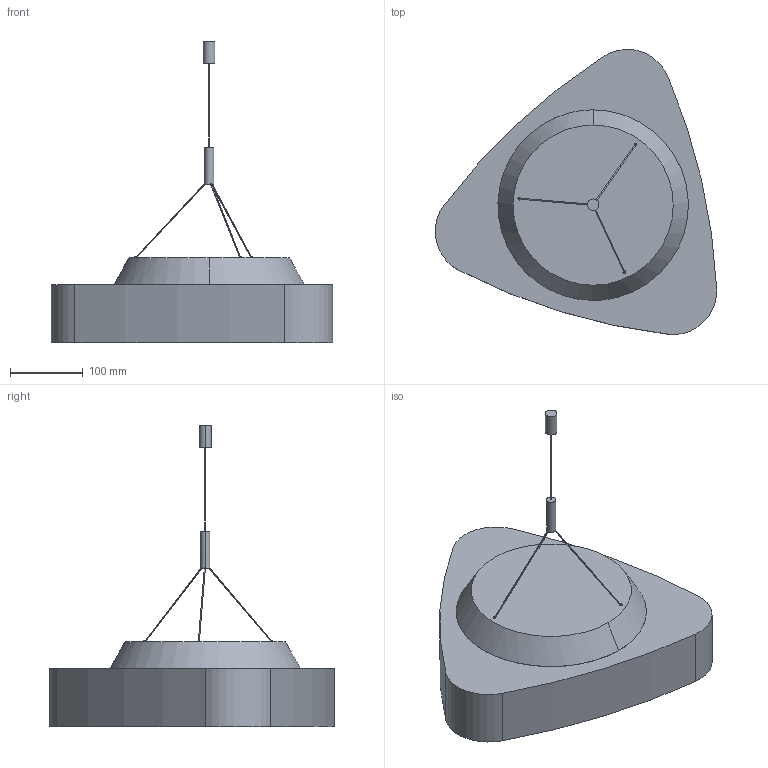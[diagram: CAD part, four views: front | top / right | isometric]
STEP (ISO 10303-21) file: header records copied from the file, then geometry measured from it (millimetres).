
FILE_DESCRIPTION(('Creo Elements/Direct Modeling STEP Export'),'2;1');
FILE_NAME('RON LED PENDELSET 400.stp','2016-04-05T13:34:23',(''),(''),'Creo Elements/Direct Modeling STEP processor for AP214 (Solid Model)','Creo Elements/Direct Modeling 18.1A 09-Jun-2012 (C) Parametric Technology GmbH','');
FILE_SCHEMA(('AUTOMOTIVE_DESIGN { 1 0 10303 214 1 1 1 1 }'));
Length unit declared in the file: millimetre
Products named in the file (2): RON_LED; RON-LED-400
Assembly tree (1 placements, depth 2):
  RON-LED-400
    RON_LED
Bounding box: 387.61 x 392.65 x 415.1 mm (x, y, z)
Volume: 8387879.2 mm3; surface area: 449145.8 mm2
Topology: 1 solids, 2 shells, 90 faces, 211 edges, 142 vertices
Faces by surface type: cylinder 57, plane 27, cone 6
Entity records: 2692 total; most frequent: CARTESIAN_POINT 747, ORIENTED_EDGE 422, DIRECTION 371, EDGE_CURVE 211, AXIS2_PLACEMENT_3D 154, VERTEX_POINT 142, EDGE_LOOP 111, FACE_OUTER_BOUND 90
